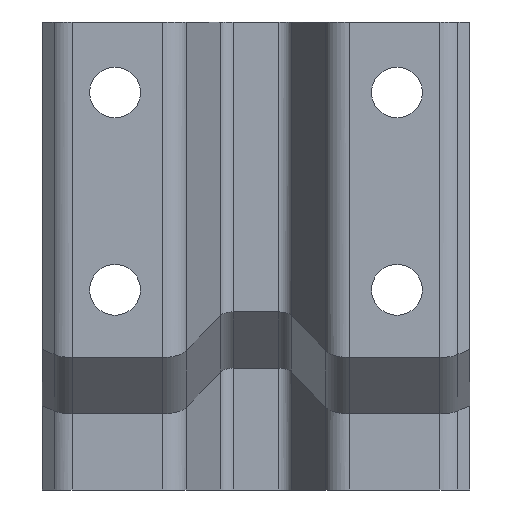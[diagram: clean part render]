
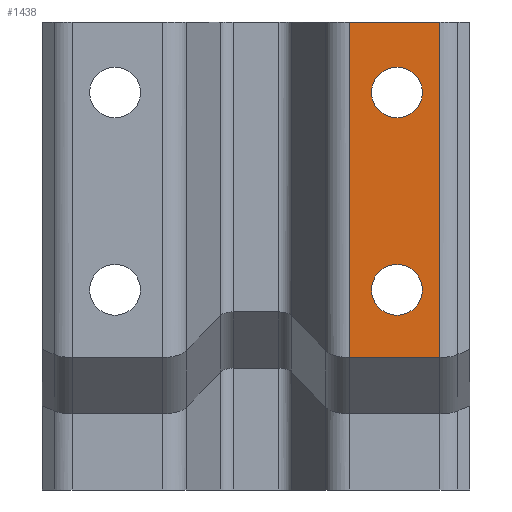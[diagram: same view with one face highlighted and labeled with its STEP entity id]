
A CAD part, front view. The second image highlights one B-rep face of the part: STEP entity #1438.
In plain terms, the highlighted planar face has unit normal (0, -1, 0).
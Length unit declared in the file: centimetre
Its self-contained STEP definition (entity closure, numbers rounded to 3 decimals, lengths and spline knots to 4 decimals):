
#18=FACE_BOUND('',#213,.T.);
#19=FACE_BOUND('',#214,.T.);
#120=FACE_OUTER_BOUND('',#212,.T.);
#212=EDGE_LOOP('',(#1094,#1095,#1096,#1097));
#213=EDGE_LOOP('',(#1098));
#214=EDGE_LOOP('',(#1099));
#324=LINE('',#2249,#476);
#326=LINE('',#2259,#478);
#348=LINE('',#2315,#500);
#349=LINE('',#2316,#501);
#476=VECTOR('',#1796,0.1);
#478=VECTOR('',#1806,0.1);
#500=VECTOR('',#1860,0.1);
#501=VECTOR('',#1861,0.1);
#595=CIRCLE('',#1536,0.9);
#597=CIRCLE('',#1539,0.9);
#658=VERTEX_POINT('',#2215);
#660=VERTEX_POINT('',#2221);
#669=VERTEX_POINT('',#2246);
#670=VERTEX_POINT('',#2248);
#671=VERTEX_POINT('',#2252);
#674=VERTEX_POINT('',#2257);
#794=EDGE_CURVE('',#658,#658,#595,.T.);
#797=EDGE_CURVE('',#660,#660,#597,.T.);
#809=EDGE_CURVE('',#669,#670,#324,.T.);
#814=EDGE_CURVE('',#671,#674,#326,.T.);
#842=EDGE_CURVE('',#674,#670,#348,.T.);
#843=EDGE_CURVE('',#671,#669,#349,.T.);
#1094=ORIENTED_EDGE('',*,*,#842,.T.);
#1095=ORIENTED_EDGE('',*,*,#809,.F.);
#1096=ORIENTED_EDGE('',*,*,#843,.F.);
#1097=ORIENTED_EDGE('',*,*,#814,.T.);
#1098=ORIENTED_EDGE('',*,*,#794,.T.);
#1099=ORIENTED_EDGE('',*,*,#797,.T.);
#1372=PLANE('',#1568);
#1438=ADVANCED_FACE('',(#120,#18,#19),#1372,.T.);
#1536=AXIS2_PLACEMENT_3D('',#2217,#1763,#1764);
#1539=AXIS2_PLACEMENT_3D('',#2223,#1770,#1771);
#1568=AXIS2_PLACEMENT_3D('',#2314,#1858,#1859);
#1763=DIRECTION('center_axis',(0.,1.,0.));
#1764=DIRECTION('ref_axis',(1.,0.,0.));
#1770=DIRECTION('center_axis',(0.,1.,0.));
#1771=DIRECTION('ref_axis',(1.,0.,0.));
#1796=DIRECTION('',(0.,0.,1.));
#1806=DIRECTION('',(0.,0.,1.));
#1858=DIRECTION('center_axis',(0.,-1.,0.));
#1859=DIRECTION('ref_axis',(0.,0.,-1.));
#1860=DIRECTION('',(-1.,0.,0.));
#1861=DIRECTION('',(-1.,0.,0.));
#2215=CARTESIAN_POINT('',(-81.8958,153.6396,14.1));
#2217=CARTESIAN_POINT('Origin',(-80.9958,153.6396,14.1));
#2221=CARTESIAN_POINT('',(-81.8958,153.6396,7.1));
#2223=CARTESIAN_POINT('Origin',(-80.9958,153.6396,7.1));
#2246=CARTESIAN_POINT('',(-82.685,153.6396,4.7));
#2248=CARTESIAN_POINT('',(-82.685,153.6396,16.6));
#2249=CARTESIAN_POINT('',(-82.685,153.6396,4.7));
#2252=CARTESIAN_POINT('',(-79.4706,153.6396,4.7));
#2257=CARTESIAN_POINT('',(-79.4706,153.6396,16.6));
#2259=CARTESIAN_POINT('',(-79.4706,153.6396,4.7));
#2314=CARTESIAN_POINT('Origin',(-79.4706,153.6396,4.7));
#2315=CARTESIAN_POINT('',(-82.685,153.6396,16.6));
#2316=CARTESIAN_POINT('',(-82.685,153.6396,4.7));
